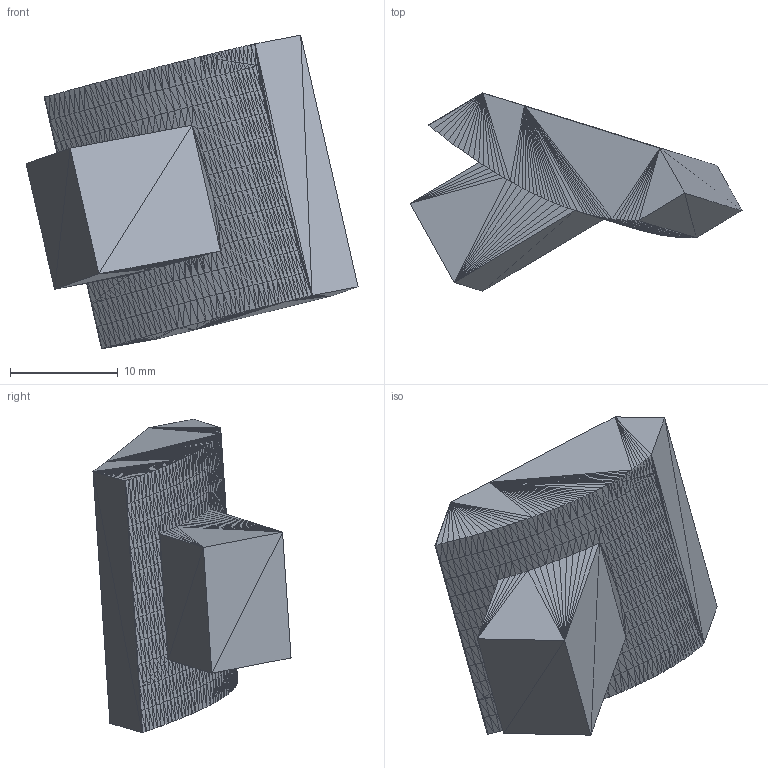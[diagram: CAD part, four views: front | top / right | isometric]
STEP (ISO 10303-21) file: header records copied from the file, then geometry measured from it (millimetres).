
FILE_DESCRIPTION((''),'2;1');
FILE_NAME('Thumb P2 Inner', '2025-03-27T08:07:32', (''), (''), 'ImageToStl.com STEP Converter','', '');
FILE_SCHEMA(('AUTOMOTIVE_DESIGN_CC2'));
Length unit declared in the file: metre
Products named in the file (1): product0
Bounding box: 30.81 x 18.38 x 29.1 mm (x, y, z)
Surface area: 2063.3 mm2 (no closed solid volume)
Topology: 0 solids, 1002 shells, 1002 faces, 3006 edges, 503 vertices
Faces by surface type: plane 1002
Entity records: 24087 total; most frequent: DIRECTION 5012, ORIENTED_EDGE 3006, EDGE_CURVE 3006, LINE 3006, VECTOR 3006, AXIS2_PLACEMENT_3D 1003, STYLED_ITEM 1003, FACE_SURFACE 1002
